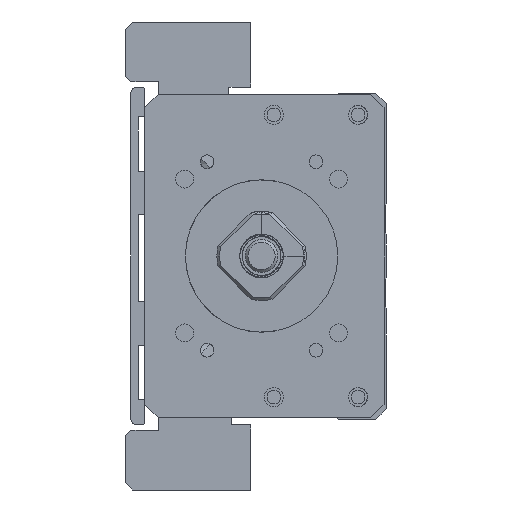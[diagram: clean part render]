
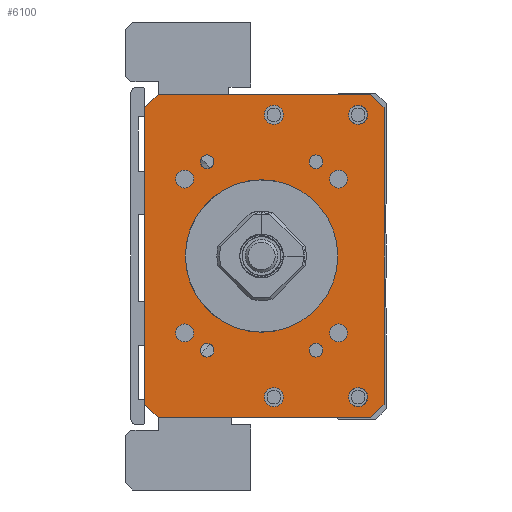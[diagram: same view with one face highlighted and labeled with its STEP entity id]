
A CAD part, left-side view. The second image highlights one B-rep face of the part: STEP entity #6100.
In plain terms, the highlighted planar face has unit normal (-1, 0, 0).
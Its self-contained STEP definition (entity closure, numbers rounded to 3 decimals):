
#4850=FACE_BOUND('',#7956,.T.);
#4851=FACE_BOUND('',#7957,.T.);
#4852=FACE_BOUND('',#7958,.T.);
#4853=FACE_BOUND('',#7959,.T.);
#4854=FACE_BOUND('',#7960,.T.);
#4855=FACE_BOUND('',#7961,.T.);
#4856=FACE_BOUND('',#7962,.T.);
#4857=FACE_BOUND('',#7963,.T.);
#4858=FACE_BOUND('',#7964,.T.);
#4859=FACE_BOUND('',#7965,.T.);
#4860=FACE_BOUND('',#7966,.T.);
#4861=FACE_BOUND('',#7967,.T.);
#4862=FACE_BOUND('',#7968,.T.);
#4863=FACE_BOUND('',#7969,.T.);
#5442=CIRCLE('',#17064,14.);
#5451=CIRCLE('',#17075,1.65);
#5452=CIRCLE('',#17076,1.65);
#5453=CIRCLE('',#17077,1.65);
#5454=CIRCLE('',#17078,1.65);
#5455=CIRCLE('',#17079,1.25);
#5456=CIRCLE('',#17080,1.75);
#5457=CIRCLE('',#17081,1.25);
#5458=CIRCLE('',#17082,1.75);
#5459=CIRCLE('',#17083,1.25);
#5460=CIRCLE('',#17084,1.75);
#5461=CIRCLE('',#17085,1.75);
#5462=CIRCLE('',#17086,1.25);
#6100=ADVANCED_FACE('',(#4850,#4851,#4852,#4853,#4854,#4855,#4856,#4857,
#4858,#4859,#4860,#4861,#4862,#4863),#6692,.F.);
#6692=PLANE('',#17087);
#7956=EDGE_LOOP('',(#10414));
#7957=EDGE_LOOP('',(#10415));
#7958=EDGE_LOOP('',(#10416));
#7959=EDGE_LOOP('',(#10417));
#7960=EDGE_LOOP('',(#10418));
#7961=EDGE_LOOP('',(#10419));
#7962=EDGE_LOOP('',(#10420));
#7963=EDGE_LOOP('',(#10421));
#7964=EDGE_LOOP('',(#10422));
#7965=EDGE_LOOP('',(#10423,#10424,#10425,#10426,#10427,#10428,#10429,#10430));
#7966=EDGE_LOOP('',(#10431));
#7967=EDGE_LOOP('',(#10432));
#7968=EDGE_LOOP('',(#10433));
#7969=EDGE_LOOP('',(#10434));
#10414=ORIENTED_EDGE('',*,*,#13807,.F.);
#10415=ORIENTED_EDGE('',*,*,#13808,.F.);
#10416=ORIENTED_EDGE('',*,*,#13809,.F.);
#10417=ORIENTED_EDGE('',*,*,#13810,.F.);
#10418=ORIENTED_EDGE('',*,*,#13811,.F.);
#10419=ORIENTED_EDGE('',*,*,#13812,.T.);
#10420=ORIENTED_EDGE('',*,*,#13813,.F.);
#10421=ORIENTED_EDGE('',*,*,#13814,.F.);
#10422=ORIENTED_EDGE('',*,*,#13815,.F.);
#10423=ORIENTED_EDGE('',*,*,#13804,.T.);
#10424=ORIENTED_EDGE('',*,*,#13816,.T.);
#10425=ORIENTED_EDGE('',*,*,#13817,.F.);
#10426=ORIENTED_EDGE('',*,*,#13818,.T.);
#10427=ORIENTED_EDGE('',*,*,#13819,.F.);
#10428=ORIENTED_EDGE('',*,*,#13820,.T.);
#10429=ORIENTED_EDGE('',*,*,#13821,.T.);
#10430=ORIENTED_EDGE('',*,*,#13822,.T.);
#10431=ORIENTED_EDGE('',*,*,#13823,.F.);
#10432=ORIENTED_EDGE('',*,*,#13824,.F.);
#10433=ORIENTED_EDGE('',*,*,#13825,.F.);
#10434=ORIENTED_EDGE('',*,*,#13784,.F.);
#12356=VERTEX_POINT('',#23573);
#12376=VERTEX_POINT('',#23649);
#12377=VERTEX_POINT('',#23651);
#12379=VERTEX_POINT('',#23657);
#12380=VERTEX_POINT('',#23659);
#12381=VERTEX_POINT('',#23661);
#12382=VERTEX_POINT('',#23663);
#12383=VERTEX_POINT('',#23665);
#12384=VERTEX_POINT('',#23667);
#12385=VERTEX_POINT('',#23669);
#12386=VERTEX_POINT('',#23671);
#12387=VERTEX_POINT('',#23673);
#12388=VERTEX_POINT('',#23675);
#12389=VERTEX_POINT('',#23677);
#12390=VERTEX_POINT('',#23679);
#12391=VERTEX_POINT('',#23681);
#12392=VERTEX_POINT('',#23683);
#12393=VERTEX_POINT('',#23685);
#12394=VERTEX_POINT('',#23688);
#12395=VERTEX_POINT('',#23690);
#12396=VERTEX_POINT('',#23692);
#13784=EDGE_CURVE('',#12356,#12356,#5442,.T.);
#13804=EDGE_CURVE('',#12377,#12376,#15120,.T.);
#13807=EDGE_CURVE('',#12379,#12379,#5451,.T.);
#13808=EDGE_CURVE('',#12380,#12380,#5452,.T.);
#13809=EDGE_CURVE('',#12381,#12381,#5453,.T.);
#13810=EDGE_CURVE('',#12382,#12382,#5454,.T.);
#13811=EDGE_CURVE('',#12383,#12383,#5455,.T.);
#13812=EDGE_CURVE('',#12384,#12384,#5456,.T.);
#13813=EDGE_CURVE('',#12385,#12385,#5457,.T.);
#13814=EDGE_CURVE('',#12386,#12386,#5458,.T.);
#13815=EDGE_CURVE('',#12387,#12387,#5459,.T.);
#13816=EDGE_CURVE('',#12376,#12388,#15122,.T.);
#13817=EDGE_CURVE('',#12389,#12388,#15123,.T.);
#13818=EDGE_CURVE('',#12389,#12390,#15124,.T.);
#13819=EDGE_CURVE('',#12391,#12390,#15125,.T.);
#13820=EDGE_CURVE('',#12391,#12392,#15126,.T.);
#13821=EDGE_CURVE('',#12392,#12393,#15127,.T.);
#13822=EDGE_CURVE('',#12393,#12377,#15128,.T.);
#13823=EDGE_CURVE('',#12394,#12394,#5460,.T.);
#13824=EDGE_CURVE('',#12395,#12395,#5461,.T.);
#13825=EDGE_CURVE('',#12396,#12396,#5462,.T.);
#15120=LINE('',#23650,#16097);
#15122=LINE('',#23674,#16099);
#15123=LINE('',#23676,#16100);
#15124=LINE('',#23678,#16101);
#15125=LINE('',#23680,#16102);
#15126=LINE('',#23682,#16103);
#15127=LINE('',#23684,#16104);
#15128=LINE('',#23686,#16105);
#16097=VECTOR('',#19697,1.);
#16099=VECTOR('',#19721,1.);
#16100=VECTOR('',#19722,1.);
#16101=VECTOR('',#19723,1.);
#16102=VECTOR('',#19724,1.);
#16103=VECTOR('',#19725,1.);
#16104=VECTOR('',#19726,1.);
#16105=VECTOR('',#19727,1.);
#17064=AXIS2_PLACEMENT_3D('',#23572,#19671,#19672);
#17075=AXIS2_PLACEMENT_3D('',#23656,#19703,#19704);
#17076=AXIS2_PLACEMENT_3D('',#23658,#19705,#19706);
#17077=AXIS2_PLACEMENT_3D('',#23660,#19707,#19708);
#17078=AXIS2_PLACEMENT_3D('',#23662,#19709,#19710);
#17079=AXIS2_PLACEMENT_3D('',#23664,#19711,#19712);
#17080=AXIS2_PLACEMENT_3D('',#23666,#19713,#19714);
#17081=AXIS2_PLACEMENT_3D('',#23668,#19715,#19716);
#17082=AXIS2_PLACEMENT_3D('',#23670,#19717,#19718);
#17083=AXIS2_PLACEMENT_3D('',#23672,#19719,#19720);
#17084=AXIS2_PLACEMENT_3D('',#23687,#19728,#19729);
#17085=AXIS2_PLACEMENT_3D('',#23689,#19730,#19731);
#17086=AXIS2_PLACEMENT_3D('',#23691,#19732,#19733);
#17087=AXIS2_PLACEMENT_3D('',#23693,#19734,#19735);
#19671=DIRECTION('',(-1.,0.,0.));
#19672=DIRECTION('',(0.,1.,0.));
#19697=DIRECTION('',(0.,0.,-1.));
#19703=DIRECTION('',(-1.,0.,0.));
#19704=DIRECTION('',(0.,0.,1.));
#19705=DIRECTION('',(-1.,0.,0.));
#19706=DIRECTION('',(0.,0.,1.));
#19707=DIRECTION('',(-1.,0.,0.));
#19708=DIRECTION('',(0.,0.,1.));
#19709=DIRECTION('',(-1.,0.,0.));
#19710=DIRECTION('',(0.,0.,1.));
#19711=DIRECTION('',(-1.,0.,0.));
#19712=DIRECTION('',(0.,1.,0.));
#19713=DIRECTION('',(1.,0.,0.));
#19714=DIRECTION('',(0.,0.,1.));
#19715=DIRECTION('',(-1.,0.,0.));
#19716=DIRECTION('',(0.,1.,0.));
#19717=DIRECTION('',(-1.,0.,0.));
#19718=DIRECTION('',(0.,0.,1.));
#19719=DIRECTION('',(-1.,0.,0.));
#19720=DIRECTION('',(0.,1.,0.));
#19721=DIRECTION('',(0.,-0.707,-0.707));
#19722=DIRECTION('',(0.,1.,0.));
#19723=DIRECTION('',(0.,-0.707,0.707));
#19724=DIRECTION('',(0.,0.,-1.));
#19725=DIRECTION('',(0.,0.707,0.707));
#19726=DIRECTION('',(0.,1.,0.));
#19727=DIRECTION('',(0.,0.707,-0.707));
#19728=DIRECTION('',(-1.,0.,0.));
#19729=DIRECTION('',(0.,0.,1.));
#19730=DIRECTION('',(-1.,0.,0.));
#19731=DIRECTION('',(0.,0.,1.));
#19732=DIRECTION('',(-1.,0.,0.));
#19733=DIRECTION('',(0.,1.,0.));
#19734=DIRECTION('',(1.,0.,0.));
#19735=DIRECTION('',(0.,1.,0.));
#23572=CARTESIAN_POINT('',(-211.,0.,-200.));
#23573=CARTESIAN_POINT('',(-211.,14.,-200.));
#23649=CARTESIAN_POINT('',(-211.,21.499,-227.25));
#23650=CARTESIAN_POINT('',(-211.,21.499,-170.25));
#23651=CARTESIAN_POINT('',(-211.,21.499,-172.75));
#23656=CARTESIAN_POINT('',(-211.,14.142,-185.858));
#23657=CARTESIAN_POINT('',(-211.,14.142,-184.208));
#23658=CARTESIAN_POINT('',(-211.,-14.142,-185.858));
#23659=CARTESIAN_POINT('',(-211.,-14.142,-184.208));
#23660=CARTESIAN_POINT('',(-211.,14.142,-214.142));
#23661=CARTESIAN_POINT('',(-211.,14.142,-212.492));
#23662=CARTESIAN_POINT('',(-211.,-14.142,-214.142));
#23663=CARTESIAN_POINT('',(-211.,-14.142,-212.492));
#23664=CARTESIAN_POINT('',(-211.,-10.,-217.321));
#23665=CARTESIAN_POINT('',(-211.,-8.75,-217.321));
#23666=CARTESIAN_POINT('',(-211.,-2.25,-225.936));
#23667=CARTESIAN_POINT('',(-211.,-2.25,-224.186));
#23668=CARTESIAN_POINT('',(-211.,10.,-182.679));
#23669=CARTESIAN_POINT('',(-211.,11.25,-182.679));
#23670=CARTESIAN_POINT('',(-211.,-2.25,-174.064));
#23671=CARTESIAN_POINT('',(-211.,-2.25,-172.314));
#23672=CARTESIAN_POINT('',(-211.,10.,-217.321));
#23673=CARTESIAN_POINT('',(-211.,11.25,-217.321));
#23674=CARTESIAN_POINT('',(-211.,18.999,-229.75));
#23675=CARTESIAN_POINT('',(-211.,18.999,-229.75));
#23676=CARTESIAN_POINT('',(-211.,-22.501,-229.75));
#23677=CARTESIAN_POINT('',(-211.,-20.001,-229.75));
#23678=CARTESIAN_POINT('',(-211.,-22.501,-227.25));
#23679=CARTESIAN_POINT('',(-211.,-22.501,-227.25));
#23680=CARTESIAN_POINT('',(-211.,-22.501,-170.25));
#23681=CARTESIAN_POINT('',(-211.,-22.501,-172.75));
#23682=CARTESIAN_POINT('',(-211.,-22.501,-172.75));
#23683=CARTESIAN_POINT('',(-211.,-20.001,-170.25));
#23684=CARTESIAN_POINT('',(-211.,-22.501,-170.25));
#23685=CARTESIAN_POINT('',(-211.,18.999,-170.25));
#23686=CARTESIAN_POINT('',(-211.,18.999,-170.25));
#23687=CARTESIAN_POINT('',(-211.,-17.75,-174.064));
#23688=CARTESIAN_POINT('',(-211.,-17.75,-172.314));
#23689=CARTESIAN_POINT('',(-211.,-17.75,-225.936));
#23690=CARTESIAN_POINT('',(-211.,-17.75,-224.186));
#23691=CARTESIAN_POINT('',(-211.,-10.,-182.679));
#23692=CARTESIAN_POINT('',(-211.,-8.75,-182.679));
#23693=CARTESIAN_POINT('',(-211.,-22.501,-170.25));
